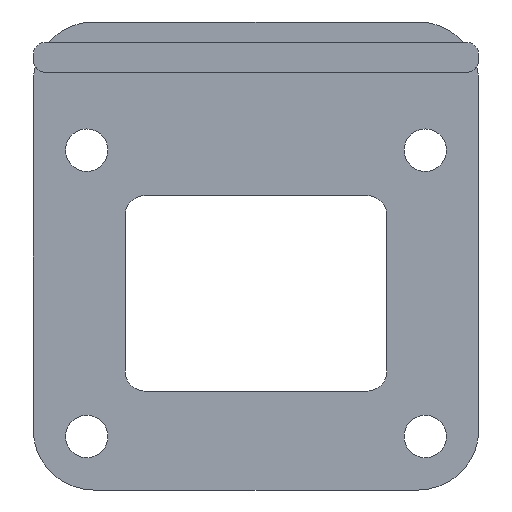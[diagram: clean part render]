
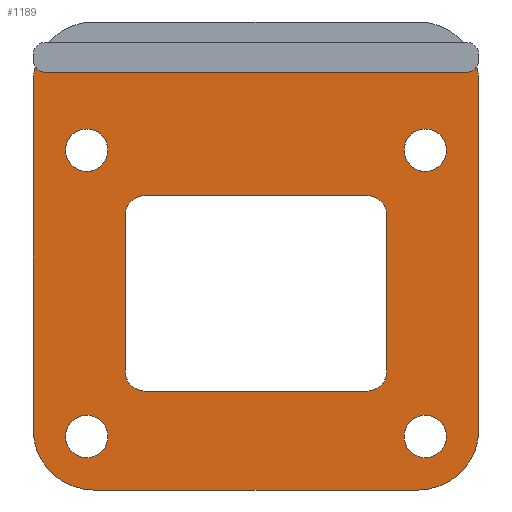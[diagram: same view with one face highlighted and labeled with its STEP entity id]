
A CAD part, front view. The second image highlights one B-rep face of the part: STEP entity #1189.
In plain terms, the highlighted planar face has unit normal (0, -1, 0).
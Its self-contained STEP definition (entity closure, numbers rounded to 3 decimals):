
#632 = VERTEX_POINT('',#633);
#633 = CARTESIAN_POINT('',(172.313,-300.8,583.366));
#639 = EDGE_CURVE('',#640,#632,#642,.T.);
#640 = VERTEX_POINT('',#641);
#641 = CARTESIAN_POINT('',(173.4,-300.8,582.78));
#642 = CIRCLE('',#643,1.3);
#643 = AXIS2_PLACEMENT_3D('',#644,#645,#646);
#644 = CARTESIAN_POINT('',(173.4,-300.8,584.08));
#645 = DIRECTION('',(0.,1.,0.));
#646 = DIRECTION('',(0.,-0.,1.));
#673 = VERTEX_POINT('',#674);
#674 = CARTESIAN_POINT('',(214.963,-300.8,582.78));
#680 = EDGE_CURVE('',#681,#673,#683,.T.);
#681 = VERTEX_POINT('',#682);
#682 = CARTESIAN_POINT('',(216.05,-300.8,583.366));
#683 = CIRCLE('',#684,1.3);
#684 = AXIS2_PLACEMENT_3D('',#685,#686,#687);
#685 = CARTESIAN_POINT('',(214.963,-300.8,584.08));
#686 = DIRECTION('',(0.,1.,0.));
#687 = DIRECTION('',(0.,-0.,1.));
#718 = EDGE_CURVE('',#673,#640,#719,.T.);
#719 = LINE('',#720,#721);
#720 = CARTESIAN_POINT('',(183.791,-300.8,582.78));
#721 = VECTOR('',#722,1.);
#722 = DIRECTION('',(-1.,0.,0.));
#733 = VERTEX_POINT('',#734);
#734 = CARTESIAN_POINT('',(178.1,-300.8,541.4));
#740 = EDGE_CURVE('',#733,#741,#743,.T.);
#741 = VERTEX_POINT('',#742);
#742 = CARTESIAN_POINT('',(210.263,-300.8,541.4));
#743 = LINE('',#744,#745);
#744 = CARTESIAN_POINT('',(178.1,-300.8,541.4));
#745 = VECTOR('',#746,1.);
#746 = DIRECTION('',(1.,0.,-0.));
#765 = VERTEX_POINT('',#766);
#766 = CARTESIAN_POINT('',(216.263,-300.8,547.4));
#772 = EDGE_CURVE('',#765,#741,#773,.T.);
#773 = CIRCLE('',#774,6.);
#774 = AXIS2_PLACEMENT_3D('',#775,#776,#777);
#775 = CARTESIAN_POINT('',(210.263,-300.8,547.4));
#776 = DIRECTION('',(0.,1.,0.));
#777 = DIRECTION('',(0.,-0.,1.));
#788 = EDGE_CURVE('',#765,#789,#791,.T.);
#789 = VERTEX_POINT('',#790);
#790 = CARTESIAN_POINT('',(216.263,-300.8,581.78));
#791 = LINE('',#792,#793);
#792 = CARTESIAN_POINT('',(216.263,-300.8,547.4));
#793 = VECTOR('',#794,1.);
#794 = DIRECTION('',(0.,0.,1.));
#814 = EDGE_CURVE('',#681,#789,#815,.T.);
#815 = CIRCLE('',#816,6.);
#816 = AXIS2_PLACEMENT_3D('',#817,#818,#819);
#817 = CARTESIAN_POINT('',(210.263,-300.8,581.78));
#818 = DIRECTION('',(0.,1.,0.));
#819 = DIRECTION('',(0.,-0.,1.));
#832 = VERTEX_POINT('',#833);
#833 = CARTESIAN_POINT('',(172.1,-300.8,581.78));
#839 = EDGE_CURVE('',#832,#632,#840,.T.);
#840 = CIRCLE('',#841,6.);
#841 = AXIS2_PLACEMENT_3D('',#842,#843,#844);
#842 = CARTESIAN_POINT('',(178.1,-300.8,581.78));
#843 = DIRECTION('',(0.,1.,0.));
#844 = DIRECTION('',(0.,-0.,1.));
#855 = EDGE_CURVE('',#856,#832,#858,.T.);
#856 = VERTEX_POINT('',#857);
#857 = CARTESIAN_POINT('',(172.1,-300.8,547.4));
#858 = LINE('',#859,#860);
#859 = CARTESIAN_POINT('',(172.1,-300.8,547.4));
#860 = VECTOR('',#861,1.);
#861 = DIRECTION('',(0.,0.,1.));
#881 = EDGE_CURVE('',#733,#856,#882,.T.);
#882 = CIRCLE('',#883,6.);
#883 = AXIS2_PLACEMENT_3D('',#884,#885,#886);
#884 = CARTESIAN_POINT('',(178.1,-300.8,547.4));
#885 = DIRECTION('',(0.,1.,0.));
#886 = DIRECTION('',(0.,-0.,1.));
#899 = VERTEX_POINT('',#900);
#900 = CARTESIAN_POINT('',(177.4,-300.8,548.8));
#906 = EDGE_CURVE('',#899,#899,#907,.T.);
#907 = CIRCLE('',#908,2.1);
#908 = AXIS2_PLACEMENT_3D('',#909,#910,#911);
#909 = CARTESIAN_POINT('',(177.4,-300.8,546.7));
#910 = DIRECTION('',(0.,1.,0.));
#911 = DIRECTION('',(0.,-0.,1.));
#924 = VERTEX_POINT('',#925);
#925 = CARTESIAN_POINT('',(177.4,-300.8,577.18));
#931 = EDGE_CURVE('',#924,#924,#932,.T.);
#932 = CIRCLE('',#933,2.1);
#933 = AXIS2_PLACEMENT_3D('',#934,#935,#936);
#934 = CARTESIAN_POINT('',(177.4,-300.8,575.08));
#935 = DIRECTION('',(0.,1.,0.));
#936 = DIRECTION('',(0.,-0.,1.));
#948 = VERTEX_POINT('',#949);
#949 = CARTESIAN_POINT('',(183.2,-300.8,570.58));
#955 = EDGE_CURVE('',#956,#948,#958,.T.);
#956 = VERTEX_POINT('',#957);
#957 = CARTESIAN_POINT('',(205.163,-300.8,570.58));
#958 = LINE('',#959,#960);
#959 = CARTESIAN_POINT('',(188.691,-300.8,570.58));
#960 = VECTOR('',#961,1.);
#961 = DIRECTION('',(-1.,0.,0.));
#980 = VERTEX_POINT('',#981);
#981 = CARTESIAN_POINT('',(181.2,-300.8,568.58));
#987 = EDGE_CURVE('',#980,#948,#988,.T.);
#988 = CIRCLE('',#989,2.);
#989 = AXIS2_PLACEMENT_3D('',#990,#991,#992);
#990 = CARTESIAN_POINT('',(183.2,-300.8,568.58));
#991 = DIRECTION('',(0.,1.,0.));
#992 = DIRECTION('',(0.,-0.,1.));
#1005 = EDGE_CURVE('',#956,#1006,#1008,.T.);
#1006 = VERTEX_POINT('',#1007);
#1007 = CARTESIAN_POINT('',(207.163,-300.8,568.58));
#1008 = CIRCLE('',#1009,2.);
#1009 = AXIS2_PLACEMENT_3D('',#1010,#1011,#1012);
#1010 = CARTESIAN_POINT('',(205.163,-300.8,568.58));
#1011 = DIRECTION('',(0.,1.,0.));
#1012 = DIRECTION('',(0.,-0.,1.));
#1028 = EDGE_CURVE('',#1029,#980,#1031,.T.);
#1029 = VERTEX_POINT('',#1030);
#1030 = CARTESIAN_POINT('',(181.2,-300.8,553.2));
#1031 = LINE('',#1032,#1033);
#1032 = CARTESIAN_POINT('',(181.2,-300.8,558.895));
#1033 = VECTOR('',#1034,1.);
#1034 = DIRECTION('',(0.,-0.,1.));
#1052 = EDGE_CURVE('',#1053,#1006,#1055,.T.);
#1053 = VERTEX_POINT('',#1054);
#1054 = CARTESIAN_POINT('',(207.163,-300.8,553.2));
#1055 = LINE('',#1056,#1057);
#1056 = CARTESIAN_POINT('',(207.163,-300.8,558.895));
#1057 = VECTOR('',#1058,1.);
#1058 = DIRECTION('',(0.,-0.,1.));
#1078 = VERTEX_POINT('',#1079);
#1079 = CARTESIAN_POINT('',(183.2,-300.8,551.2));
#1085 = EDGE_CURVE('',#1078,#1029,#1086,.T.);
#1086 = CIRCLE('',#1087,2.);
#1087 = AXIS2_PLACEMENT_3D('',#1088,#1089,#1090);
#1088 = CARTESIAN_POINT('',(183.2,-300.8,553.2));
#1089 = DIRECTION('',(0.,1.,0.));
#1090 = DIRECTION('',(0.,-0.,1.));
#1103 = EDGE_CURVE('',#1053,#1104,#1106,.T.);
#1104 = VERTEX_POINT('',#1105);
#1105 = CARTESIAN_POINT('',(205.163,-300.8,551.2));
#1106 = CIRCLE('',#1107,2.);
#1107 = AXIS2_PLACEMENT_3D('',#1108,#1109,#1110);
#1108 = CARTESIAN_POINT('',(205.163,-300.8,553.2));
#1109 = DIRECTION('',(0.,1.,0.));
#1110 = DIRECTION('',(0.,-0.,1.));
#1127 = EDGE_CURVE('',#1104,#1078,#1128,.T.);
#1128 = LINE('',#1129,#1130);
#1129 = CARTESIAN_POINT('',(188.691,-300.8,551.2));
#1130 = VECTOR('',#1131,1.);
#1131 = DIRECTION('',(-1.,0.,0.));
#1145 = VERTEX_POINT('',#1146);
#1146 = CARTESIAN_POINT('',(210.963,-300.8,548.8));
#1152 = EDGE_CURVE('',#1145,#1145,#1153,.T.);
#1153 = CIRCLE('',#1154,2.1);
#1154 = AXIS2_PLACEMENT_3D('',#1155,#1156,#1157);
#1155 = CARTESIAN_POINT('',(210.963,-300.8,546.7));
#1156 = DIRECTION('',(0.,1.,0.));
#1157 = DIRECTION('',(0.,-0.,1.));
#1170 = VERTEX_POINT('',#1171);
#1171 = CARTESIAN_POINT('',(210.963,-300.8,577.18));
#1177 = EDGE_CURVE('',#1170,#1170,#1178,.T.);
#1178 = CIRCLE('',#1179,2.1);
#1179 = AXIS2_PLACEMENT_3D('',#1180,#1181,#1182);
#1180 = CARTESIAN_POINT('',(210.963,-300.8,575.08));
#1181 = DIRECTION('',(0.,1.,0.));
#1182 = DIRECTION('',(0.,-0.,1.));
#1189 = ADVANCED_FACE('',(#1190,#1202,#1205,#1215,#1218,#1221),#1224,.T.
  );
#1190 = FACE_BOUND('',#1191,.T.);
#1191 = EDGE_LOOP('',(#1192,#1193,#1194,#1195,#1196,#1197,#1198,#1199,
    #1200,#1201));
#1192 = ORIENTED_EDGE('',*,*,#881,.F.);
#1193 = ORIENTED_EDGE('',*,*,#740,.T.);
#1194 = ORIENTED_EDGE('',*,*,#772,.F.);
#1195 = ORIENTED_EDGE('',*,*,#788,.T.);
#1196 = ORIENTED_EDGE('',*,*,#814,.F.);
#1197 = ORIENTED_EDGE('',*,*,#680,.T.);
#1198 = ORIENTED_EDGE('',*,*,#718,.T.);
#1199 = ORIENTED_EDGE('',*,*,#639,.T.);
#1200 = ORIENTED_EDGE('',*,*,#839,.F.);
#1201 = ORIENTED_EDGE('',*,*,#855,.F.);
#1202 = FACE_BOUND('',#1203,.T.);
#1203 = EDGE_LOOP('',(#1204));
#1204 = ORIENTED_EDGE('',*,*,#931,.T.);
#1205 = FACE_BOUND('',#1206,.T.);
#1206 = EDGE_LOOP('',(#1207,#1208,#1209,#1210,#1211,#1212,#1213,#1214));
#1207 = ORIENTED_EDGE('',*,*,#955,.F.);
#1208 = ORIENTED_EDGE('',*,*,#1005,.T.);
#1209 = ORIENTED_EDGE('',*,*,#1052,.F.);
#1210 = ORIENTED_EDGE('',*,*,#1103,.T.);
#1211 = ORIENTED_EDGE('',*,*,#1127,.T.);
#1212 = ORIENTED_EDGE('',*,*,#1085,.T.);
#1213 = ORIENTED_EDGE('',*,*,#1028,.T.);
#1214 = ORIENTED_EDGE('',*,*,#987,.T.);
#1215 = FACE_BOUND('',#1216,.T.);
#1216 = EDGE_LOOP('',(#1217));
#1217 = ORIENTED_EDGE('',*,*,#906,.T.);
#1218 = FACE_BOUND('',#1219,.T.);
#1219 = EDGE_LOOP('',(#1220));
#1220 = ORIENTED_EDGE('',*,*,#1177,.T.);
#1221 = FACE_BOUND('',#1222,.T.);
#1222 = EDGE_LOOP('',(#1223));
#1223 = ORIENTED_EDGE('',*,*,#1152,.T.);
#1224 = PLANE('',#1225);
#1225 = AXIS2_PLACEMENT_3D('',#1226,#1227,#1228);
#1226 = CARTESIAN_POINT('',(194.182,-300.8,564.59));
#1227 = DIRECTION('',(-0.,-1.,-0.));
#1228 = DIRECTION('',(0.,0.,-1.));
